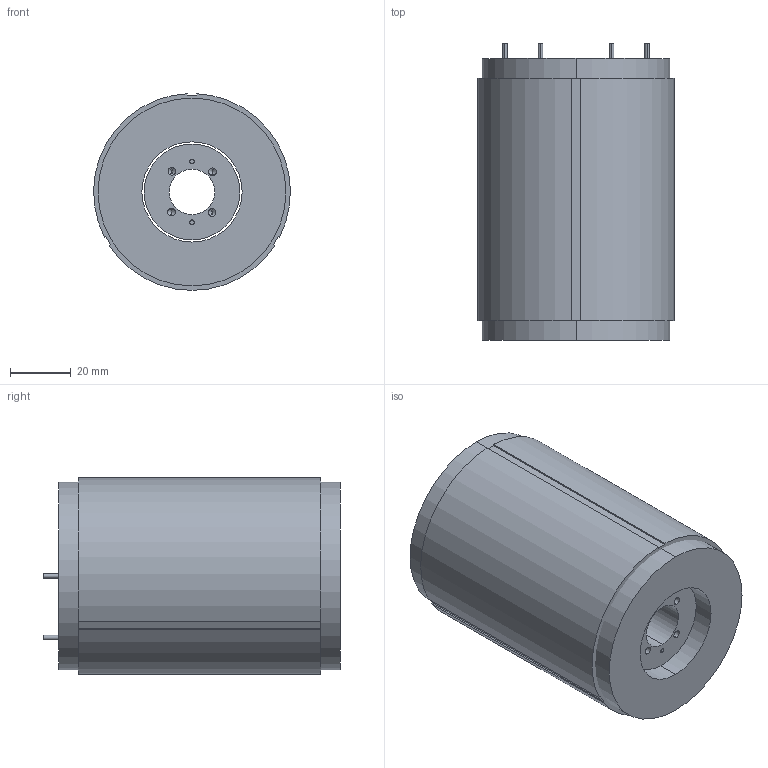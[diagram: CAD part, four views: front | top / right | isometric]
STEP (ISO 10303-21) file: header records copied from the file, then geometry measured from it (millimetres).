
FILE_DESCRIPTION (( 'STEP AP203' ), '1' );
FILE_NAME ('TMX65-90 KIT 3D.STEP', '2021-06-18T06:40:31', ( '' ), ( '' ), 'SwSTEP 2.0', 'SolidWorks 2021', '' );
FILE_SCHEMA (( 'CONFIG_CONTROL_DESIGN' ));
Length unit declared in the file: millimetre
Products named in the file (1): TMX65-90 KIT 3D
Bounding box: 64.98 x 98 x 64.96 mm (x, y, z)
Volume: 297070.8 mm3; surface area: 79004.6 mm2
Topology: 3 solids, 3 shells, 129 faces, 329 edges, 206 vertices
Faces by surface type: cylinder 78, plane 35, cone 16
Entity records: 3924 total; most frequent: DIRECTION 729, CARTESIAN_POINT 649, ORIENTED_EDGE 626, EDGE_CURVE 313, AXIS2_PLACEMENT_3D 286, VERTEX_POINT 206, VECTOR 157, LINE 157
